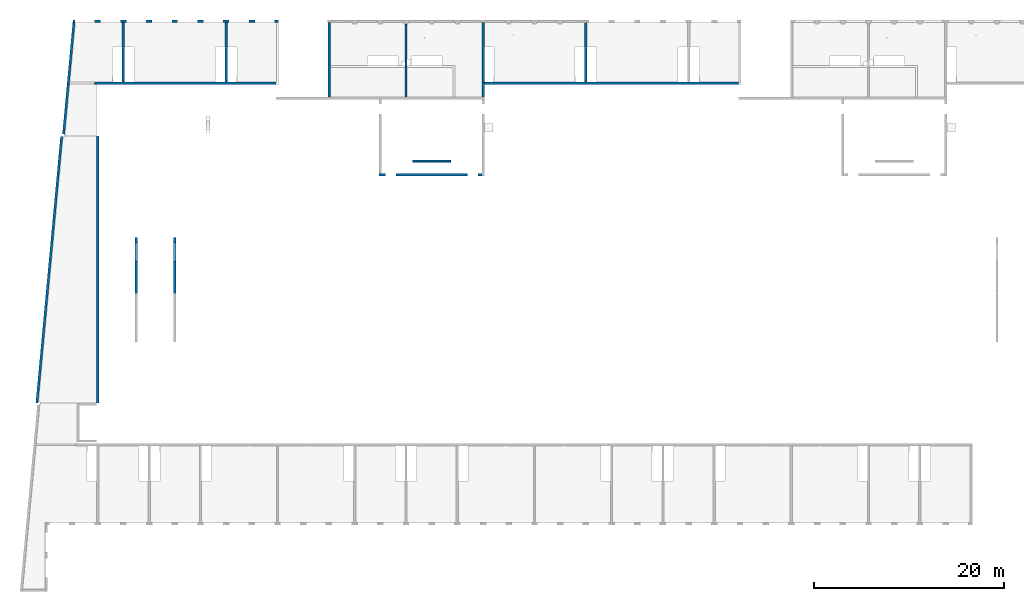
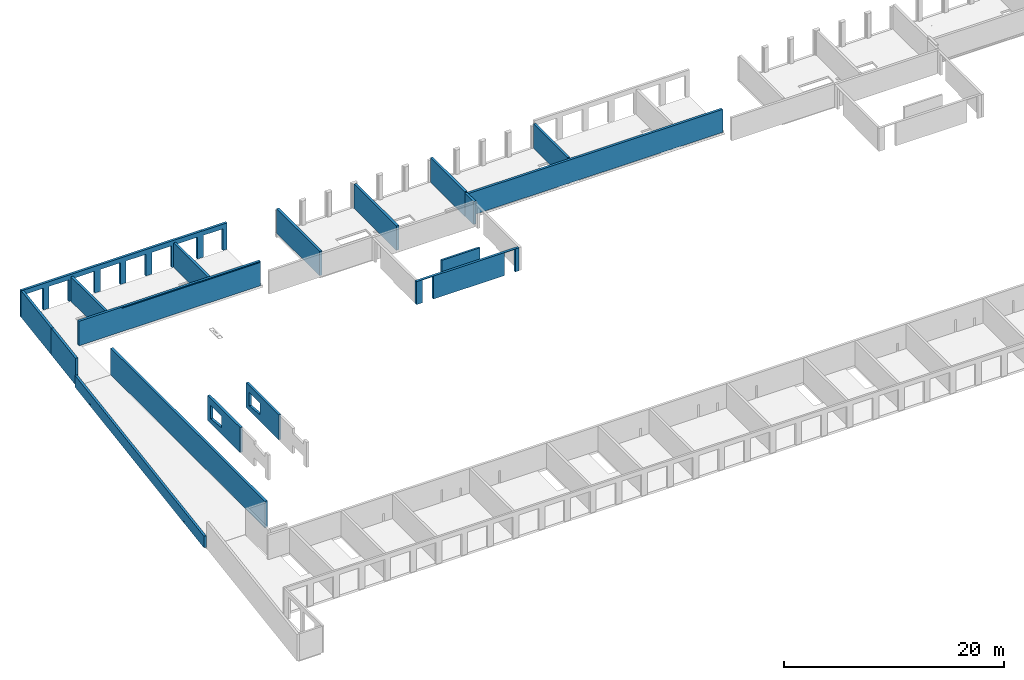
# One storey, part 5 of 12: 18 walls, 26 openings.
"""IFC2X3 building model written with IfcOpenShell, lengths in millimetres."""

from ifc_helpers import new_model, entity, si_unit, converted_unit, derived_unit, direction, frame, frame_2d, origin, origin_2d_with_axis, place, context, subcontext, project, spatial, polyline, rectangle, outline, extrude, clip, bounded_halfspace, faceted_brep, material, layer, layer_set, layer_usage, type_object, element, save


model = new_model("IFC2X3")

# Units and contexts
model_context = context("Model", 3, precision=0.01, world=origin(), true_north=direction((6.12303176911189e-17, 1.0)))
body_context = subcontext(model_context, "Body", "Model", "MODEL_VIEW")
ifc_project = project(units=[si_unit("LENGTHUNIT", "METRE", prefix="MILLI"), si_unit("AREAUNIT", "SQUARE_METRE"), si_unit("VOLUMEUNIT", "CUBIC_METRE"), converted_unit("PLANEANGLEUNIT", "DEGREE", entity("IfcRatioMeasure", 0.0174532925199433), si_unit("PLANEANGLEUNIT", "RADIAN"), dimensions=[0, 0, 0, 0, 0, 0, 0]), si_unit("MASSUNIT", "GRAM", prefix="KILO"), derived_unit("MASSDENSITYUNIT", [(si_unit("MASSUNIT", "GRAM", prefix="KILO"), 1), (si_unit("LENGTHUNIT", "METRE"), -3)]), si_unit("TIMEUNIT", "SECOND"), si_unit("FREQUENCYUNIT", "HERTZ"), si_unit("THERMODYNAMICTEMPERATUREUNIT", "DEGREE_CELSIUS"), derived_unit("THERMALTRANSMITTANCEUNIT", [(si_unit("MASSUNIT", "GRAM", prefix="KILO"), 1), (si_unit("THERMODYNAMICTEMPERATUREUNIT", "KELVIN"), -1), (si_unit("TIMEUNIT", "SECOND"), -3)]), derived_unit("VOLUMETRICFLOWRATEUNIT", [(si_unit("LENGTHUNIT", "METRE"), 3), (si_unit("TIMEUNIT", "SECOND"), -1)]), si_unit("ELECTRICCURRENTUNIT", "AMPERE"), si_unit("ELECTRICVOLTAGEUNIT", "VOLT"), si_unit("POWERUNIT", "WATT"), si_unit("FORCEUNIT", "NEWTON", prefix="KILO"), si_unit("ILLUMINANCEUNIT", "LUX"), si_unit("LUMINOUSFLUXUNIT", "LUMEN"), si_unit("LUMINOUSINTENSITYUNIT", "CANDELA"), derived_unit("USERDEFINED", [(si_unit("MASSUNIT", "GRAM", prefix="KILO"), -1), (si_unit("LENGTHUNIT", "METRE"), -2), (si_unit("TIMEUNIT", "SECOND"), 3), (si_unit("LUMINOUSFLUXUNIT", "LUMEN"), 1)]), derived_unit("LINEARVELOCITYUNIT", [(si_unit("LENGTHUNIT", "METRE"), 1), (si_unit("TIMEUNIT", "SECOND"), -1)]), si_unit("PRESSUREUNIT", "PASCAL"), derived_unit("USERDEFINED", [(si_unit("LENGTHUNIT", "METRE"), -2), (si_unit("MASSUNIT", "GRAM", prefix="KILO"), 1), (si_unit("TIMEUNIT", "SECOND"), -2)])], contexts=[model_context])

# Site, building, storey
site_placement = place(None, origin())
site = spatial("IfcSite", under=ifc_project, at=site_placement, Name="Default", CompositionType="ELEMENT")
building_placement = place(site_placement, origin())
building = spatial("IfcBuilding", under=site, at=building_placement, Name="niet gebruiken", CompositionType="ELEMENT")
storey_placement = place(building_placement, frame((0.0, 0.0, 6660.0)))
storey = spatial("IfcBuildingStorey", under=building, at=storey_placement, Name="02 tweede verdieping", CompositionType="ELEMENT", Elevation=6660.00000000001)

# Walls
ifc_material_1 = material(Name="NLRS_f2_beton ihwg")
ifc_layer_1 = layer(ifc_material_1, 250.0)
ifc_layer_set_1 = layer_set([ifc_layer_1], Name="Basic Wall:NLRS_22.21_WA_beton ihwg d=250_gen")
ifc_layer_usage_1 = layer_usage(ifc_layer_set_1, "AXIS2", "NEGATIVE", 125.0)
wall_type_1 = type_object("IfcWallType", Name="Basic Wall:NLRS_22.21_WA_beton ihwg d=250_gen", PredefinedType="STANDARD", material=ifc_layer_set_1)
wall_1_placement = place(storey_placement, frame((10800.0, 46746.0, -90.0), z_axis=(0.0, 0.0, 1.0), x_axis=(0.0, 1.0, 0.0)))
element("IfcWallStandardCase", 1, at=wall_1_placement, inside=storey, type_object=wall_type_1, material=ifc_layer_usage_1, Name="Basic Wall:NLRS_22.21_WA_beton ihwg d=250_gen", ObjectType="Basic Wall:NLRS_22.21_WA_beton ihwg d=250_gen", context=body_context, shape_type="SweptSolid", body=[
    extrude(rectangle(XDim=6239.99999999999, YDim=249.999999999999, at=frame_2d((3120.0, -2.1316282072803e-14), x_axis=(-1.0, 0.0))), origin(), (0.0, 0.0, 1.0), 2720.00000000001),
])
ifc_layer_usage_2 = layer_usage(ifc_layer_set_1, "AXIS2", "NEGATIVE", 125.0)
wall_2_placement = place(storey_placement, frame((21600.0, 46746.0, -90.0), z_axis=(0.0, 0.0, 1.0), x_axis=(0.0, 1.0, 0.0)))
element("IfcWallStandardCase", 2, at=wall_2_placement, inside=storey, type_object=wall_type_1, material=ifc_layer_usage_2, Name="Basic Wall:NLRS_22.21_WA_beton ihwg d=250_gen", ObjectType="Basic Wall:NLRS_22.21_WA_beton ihwg d=250_gen", context=body_context, shape_type="SweptSolid", body=[
    extrude(rectangle(XDim=6240.00000000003, YDim=250.000000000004, at=frame_2d((3120.00000000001, 1.06581410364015e-12), x_axis=(-1.0, 0.0))), origin(), (0.0, 0.0, 1.0), 2720.00000000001),
])

# Wall, openings
ifc_layer_usage_3 = layer_usage(ifc_layer_set_1, "AXIS2", "NEGATIVE", 125.0)
wall_3_placement = place(storey_placement, frame((26850.0, 46621.0, -90.0), z_axis=(0.0, 0.0, 1.0), x_axis=(-1.0, 0.0, 0.0)))
wall_3 = element("IfcWallStandardCase", 3, at=wall_3_placement, inside=storey, type_object=wall_type_1, material=ifc_layer_usage_3, Name="Basic Wall:NLRS_22.21_WA_beton ihwg d=250_gen", ObjectType="Basic Wall:NLRS_22.21_WA_beton ihwg d=250_gen", context=body_context, shape_type="SweptSolid", body=[
    extrude(rectangle(XDim=19065.0000000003, YDim=249.999999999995, at=frame_2d((9532.50000000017, -3.24007487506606e-12), x_axis=(-1.0, 0.0))), origin(), (0.0, 0.0, 1.0), 2720.0),
])
opening_1_placement = place(storey_placement, frame((26850.0, 46621.0, -90.0), z_axis=(0.0, 0.0, 1.0), x_axis=(-1.0, 0.0, 0.0)))
element("IfcOpeningElement", 4, at=opening_1_placement, cuts=wall_3, Name="Basic Wall:NLRS_22.21_WA_beton ihwg d=250_gen:1", ObjectType="Opening", context=body_context, shape_type="SweptSolid", body=[
    extrude(rectangle(XDim=14555.0000950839, YDim=20.0000000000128, at=frame_2d((2.27373675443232e-12, -1.29949384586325e-11), x_axis=(1.0, 0.0))), frame((7277.50004754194, 115.0, 2590.0)), (0.0, 0.0, 1.0), 70.0000000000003),
])
opening_2_placement = place(wall_3_placement, origin())
element("IfcOpeningElement", 5, at=opening_2_placement, cuts=wall_3, Name="Basic Wall:NLRS_22.21_WA_beton ihwg d=250_gen", ObjectType="Recess", context=body_context, shape_type="SweptSolid", body=[
    extrude(rectangle(XDim=890.0, YDim=200.000000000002, at=frame_2d((5.40012479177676e-13, 0.0), x_axis=(1.0, 0.0))), frame((910.0, -125.0, 445.0), z_axis=(0.0, 1.0, 0.0), x_axis=(0.0, 0.0, -1.0)), (0.0, 0.0, 1.0), 40.0000000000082),
])
opening_3_placement = place(wall_3_placement, origin())
element("IfcOpeningElement", 6, at=opening_3_placement, cuts=wall_3, Name="Basic Wall:NLRS_22.21_WA_beton ihwg d=250_gen", ObjectType="Recess", context=body_context, shape_type="SweptSolid", body=[
    extrude(rectangle(XDim=890.0, YDim=200.0, at=frame_2d((5.40012479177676e-13, -1.08713038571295e-12), x_axis=(1.0, 0.0))), frame((9610.0, -125.0, 445.0), z_axis=(0.0, 1.0, 0.0), x_axis=(0.0, 0.0, -1.0)), (0.0, 0.0, 1.0), 40.0000000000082),
])
opening_4_placement = place(wall_3_placement, origin())
element("IfcOpeningElement", 7, at=opening_4_placement, cuts=wall_3, Name="Basic Wall:NLRS_22.21_WA_beton ihwg d=250_gen", ObjectType="Recess", context=body_context, shape_type="SweptSolid", body=[
    extrude(rectangle(XDim=890.0, YDim=200.0, at=frame_2d((5.40012479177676e-13, 1.08713038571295e-12), x_axis=(1.0, 0.0))), frame((11690.0, -125.0, 445.0), z_axis=(0.0, 1.0, 0.0), x_axis=(0.0, 0.0, -1.0)), (0.0, 0.0, 1.0), 40.0000000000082),
])

ifc_layer_usage_4 = layer_usage(ifc_layer_set_1, "AXIS2", "NEGATIVE", 125.0)
wall_4_placement = place(storey_placement, frame((75450.0, 46621.0, -50.0), z_axis=(0.0, 0.0, 1.0), x_axis=(-1.0, 0.0, 0.0)))
wall_4 = element("IfcWallStandardCase", 8, at=wall_4_placement, inside=storey, type_object=wall_type_1, material=ifc_layer_usage_4, Name="Basic Wall:NLRS_22.21_WA_beton ihwg d=250_gen", ObjectType="Basic Wall:NLRS_22.21_WA_beton ihwg d=250_gen", context=body_context, shape_type="Clipping", body=[
    clip(clip(extrude(rectangle(XDim=26725.0, YDim=249.999999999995, at=frame_2d((13362.5, -9.87654402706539e-13), x_axis=(-1.0, 0.0))), origin(), (0.0, 0.0, 1.0), 2550.0), bounded_halfspace(frame((26725.0, -125.0, 0.0), z_axis=(0.0, 0.0, 1.0), x_axis=(-1.0, 0.0, 0.0)), True, frame((26725.0, -125.0, 0.0), z_axis=(0.0, 0.0, 1.0), x_axis=(-1.0, 0.0, 0.0)), polyline([(0.0, 0.0), (0.0, -250.0), (26725.0, -250.0), (26725.0, 0.0), (25915.0, 0.0), (25915.0, -40.0), (25715.0, -40.0), (25715.0, 0.0), (17210.0, 0.0), (17210.0, -40.0), (17010.0, -40.0), (17010.0, 0.0), (15140.0, 0.0), (15140.0, -40.0), (14940.0, -40.0), (14940.0, 0.0), (6410.0, 0.0), (6410.0, -40.0), (6210.0, -40.0), (6210.0, 0.0), (4340.0, 0.0), (4340.0, -40.0), (4140.0, -40.0), (4140.0, 0.0), (0.0, 0.0)]))), bounded_halfspace(frame((0.0, -125.0, 2550.0), z_axis=(0.0, 0.0, -1.0), x_axis=(1.0, 0.0, 0.0)), True, frame((0.0, -125.0, 2550.0), z_axis=(0.0, 0.0, -1.0), x_axis=(1.0, 0.0, 0.0)), polyline([(0.0, 0.0), (0.0, -250.0), (26725.0, -250.0), (26725.0, 0.0), (0.0, 0.0)]))),
])
opening_5_placement = place(wall_4_placement, origin())
element("IfcOpeningElement", 9, at=opening_5_placement, cuts=wall_4, Name="Basic Wall:NLRS_22.21_WA_beton ihwg d=250_gen", ObjectType="Recess", context=body_context, shape_type="SweptSolid", body=[
    extrude(rectangle(XDim=890.0, YDim=199.999999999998, at=frame_2d((5.40012479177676e-13, 0.0), x_axis=(1.0, 0.0))), frame((20415.0, -125.0, 405.0), z_axis=(0.0, 1.0, 0.0), x_axis=(0.0, 0.0, -1.0)), (0.0, 0.0, 1.0), 40.0000000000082),
])
opening_6_placement = place(wall_4_placement, origin())
element("IfcOpeningElement", 10, at=opening_6_placement, cuts=wall_4, Name="Basic Wall:NLRS_22.21_WA_beton ihwg d=250_gen", ObjectType="Recess", context=body_context, shape_type="SweptSolid", body=[
    extrude(rectangle(XDim=890.0, YDim=199.999999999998, at=frame_2d((5.40012479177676e-13, 0.0), x_axis=(1.0, 0.0))), frame((22485.0, -125.0, 405.0), z_axis=(0.0, 1.0, 0.0), x_axis=(0.0, 0.0, -1.0)), (0.0, 0.0, 1.0), 40.0000000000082),
])
opening_7_placement = place(wall_4_placement, origin())
element("IfcOpeningElement", 11, at=opening_7_placement, cuts=wall_4, Name="Basic Wall:NLRS_22.21_WA_beton ihwg d=250_gen", ObjectType="Recess", context=body_context, shape_type="SweptSolid", body=[
    extrude(rectangle(XDim=890.0, YDim=199.999999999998, at=frame_2d((5.40012479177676e-13, 0.0), x_axis=(1.0, 0.0))), frame((11685.0, -125.0, 405.0), z_axis=(0.0, 1.0, 0.0), x_axis=(0.0, 0.0, -1.0)), (0.0, 0.0, 1.0), 40.0000000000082),
])
opening_8_placement = place(wall_4_placement, origin())
element("IfcOpeningElement", 12, at=opening_8_placement, cuts=wall_4, Name="Basic Wall:NLRS_22.21_WA_beton ihwg d=250_gen", ObjectType="Recess", context=body_context, shape_type="SweptSolid", body=[
    extrude(rectangle(XDim=890.0, YDim=199.999999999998, at=frame_2d((5.40012479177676e-13, 0.0), x_axis=(1.0, 0.0))), frame((9615.0, -125.0, 405.0), z_axis=(0.0, 1.0, 0.0), x_axis=(0.0, 0.0, -1.0)), (0.0, 0.0, 1.0), 40.0000000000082),
])
opening_9_placement = place(wall_4_placement, origin())
element("IfcOpeningElement", 13, at=opening_9_placement, cuts=wall_4, Name="Basic Wall:NLRS_22.21_WA_beton ihwg d=250_gen", ObjectType="Recess", context=body_context, shape_type="SweptSolid", body=[
    extrude(rectangle(XDim=890.0, YDim=199.999999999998, at=frame_2d((5.40012479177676e-13, 0.0), x_axis=(1.0, 0.0))), frame((910.0, -125.0, 405.0), z_axis=(0.0, 1.0, 0.0), x_axis=(0.0, 0.0, -1.0)), (0.0, 0.0, 1.0), 40.0000000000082),
])

# Walls
ifc_layer_usage_5 = layer_usage(ifc_layer_set_1, "AXIS2", "NEGATIVE", 125.0)
wall_5_placement = place(storey_placement, frame((59400.0, 46746.0, -90.0), z_axis=(0.0, 0.0, 1.0), x_axis=(0.0, 1.0, 0.0)))
element("IfcWallStandardCase", 14, at=wall_5_placement, inside=storey, type_object=wall_type_1, material=ifc_layer_usage_5, Name="Basic Wall:NLRS_22.21_WA_beton ihwg d=250_gen", ObjectType="Basic Wall:NLRS_22.21_WA_beton ihwg d=250_gen", context=body_context, shape_type="SweptSolid", body=[
    extrude(rectangle(XDim=6239.99999999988, YDim=249.999999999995, at=frame_2d((3119.99999999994, 1.06581410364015e-12), x_axis=(-1.0, 0.0))), origin(), (0.0, 0.0, 1.0), 2720.00000000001),
])
ifc_layer_usage_6 = layer_usage(ifc_layer_set_1, "AXIS2", "NEGATIVE", 125.0)
wall_6_placement = place(storey_placement, frame((40500.0, 45156.0, -90.0), z_axis=(0.0, 0.0, 1.0), x_axis=(0.0, 1.0, 0.0)))
element("IfcWallStandardCase", 15, at=wall_6_placement, inside=storey, type_object=wall_type_1, material=ifc_layer_usage_6, Name="Basic Wall:NLRS_22.21_WA_beton ihwg d=250_gen", ObjectType="Basic Wall:NLRS_22.21_WA_beton ihwg d=250_gen", context=body_context, shape_type="SweptSolid", body=[
    extrude(rectangle(XDim=7690.00000000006, YDim=249.999999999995, at=frame_2d((3845.00000000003, 2.31636931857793e-12), x_axis=(-1.0, 0.0))), origin(), (0.0, 0.0, 1.0), 2720.00000000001),
])
ifc_layer_usage_7 = layer_usage(ifc_layer_set_1, "AXIS2", "NEGATIVE", 125.0)
wall_7_placement = place(storey_placement, frame((32425.0, 45156.0, -90.0), z_axis=(0.0, 0.0, 1.0), x_axis=(0.0, 1.0, 0.0)))
element("IfcWallStandardCase", 16, at=wall_7_placement, inside=storey, type_object=wall_type_1, material=ifc_layer_usage_7, Name="Basic Wall:NLRS_22.21_WA_beton ihwg d=250_gen", ObjectType="Basic Wall:NLRS_22.21_WA_beton ihwg d=250_gen", context=body_context, shape_type="SweptSolid", body=[
    extrude(rectangle(XDim=7849.99999999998, YDim=250.000000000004, at=frame_2d((3924.99999999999, 2.98427949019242e-13), x_axis=(-1.0, 0.0))), origin(), (0.0, 0.0, 1.0), 2720.00000000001),
])

# Wall, openings
ifc_layer_usage_8 = layer_usage(ifc_layer_set_1, "AXIS2", "NEGATIVE", 125.0)
wall_8_placement = place(storey_placement, frame((48475.0, 36981.0, -140.0), z_axis=(0.0, 0.0, 1.0), x_axis=(-1.0, 0.0, 0.0)))
wall_8 = element("IfcWallStandardCase", 17, at=wall_8_placement, inside=storey, type_object=wall_type_1, material=ifc_layer_usage_8, Name="Basic Wall:NLRS_22.21_WA_beton ihwg d=250_gen", ObjectType="Basic Wall:NLRS_22.21_WA_beton ihwg d=250_gen", context=body_context, shape_type="Clipping", body=[
    clip(extrude(rectangle(XDim=10800.0, YDim=250.000000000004, at=frame_2d((5399.99999999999, -5.47117906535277e-13), x_axis=(-1.0, 0.0))), origin(), (0.0, 0.0, 1.0), 2549.99999999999), bounded_halfspace(frame((0.0, -125.0, 2550.0), z_axis=(0.0, 0.0, -1.0), x_axis=(-1.0, 0.0, 0.0)), True, frame((0.0, -125.0, 2550.0), z_axis=(0.0, 0.0, -1.0), x_axis=(-1.0, 0.0, 0.0)), polyline([(0.0, 0.0), (0.0, 250.0), (-10800.0, 250.0), (-10800.0, 0.0), (-10550.0, 0.0), (-10250.0, 0.0), (-7175.00021676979, 0.0), (-7145.00021676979, 0.0), (-3405.00021676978, 0.0), (-3375.00021676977, 0.0), (0.0, 0.0)]))),
])
opening_10_placement = place(wall_8_placement, origin())
element("IfcOpeningElement", 18, at=opening_10_placement, cuts=wall_8, Name="Basic Wall:NLRS_22.21_WA_beton ihwg d=250_gen", ObjectType="Opening", context=body_context, shape_type="SweptSolid", body=[
    extrude(rectangle(XDim=2495.0, YDim=1130.0, at=frame_2d((-5.6843418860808e-13, 0.0), x_axis=(1.0, 0.0))), frame((9585.0, -1649.0, 1247.5), z_axis=(0.0, 1.0, 0.0), x_axis=(0.0, 0.0, 1.0)), (0.0, 0.0, 1.0), 3048.0),
])
opening_11_placement = place(wall_8_placement, origin())
element("IfcOpeningElement", 19, at=opening_11_placement, cuts=wall_8, Name="Basic Wall:NLRS_22.21_WA_beton ihwg d=250_gen", ObjectType="Opening", context=body_context, shape_type="SweptSolid", body=[
    extrude(rectangle(XDim=2495.0, YDim=1130.0, at=frame_2d((5.6843418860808e-13, 0.0), x_axis=(1.0, 0.0))), frame((965.0, -1649.0, 1247.5), z_axis=(0.0, 1.0, 0.0), x_axis=(0.0, 0.0, 1.0)), (0.0, 0.0, 1.0), 3048.0),
])

# Walls
ifc_layer_usage_9 = layer_usage(ifc_layer_set_1, "AXIS2", "NEGATIVE", 125.0)
wall_9_placement = place(storey_placement, frame((48600.0, 46746.0, -90.0), z_axis=(0.0, 0.0, 1.0), x_axis=(0.0, 1.0, 0.0)))
element("IfcWallStandardCase", 20, at=wall_9_placement, inside=storey, type_object=wall_type_1, material=ifc_layer_usage_9, Name="Basic Wall:NLRS_22.21_WA_beton ihwg d=250_gen", ObjectType="Basic Wall:NLRS_22.21_WA_beton ihwg d=250_gen", context=body_context, shape_type="Clipping", body=[
    clip(extrude(rectangle(XDim=6259.99999999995, YDim=249.999999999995, at=frame_2d((3129.99999999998, 1.08713038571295e-12), x_axis=(-1.0, 0.0))), origin(), (0.0, 0.0, 1.0), 2720.00000000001), bounded_halfspace(frame((3680.0, -125.0, 2720.0), z_axis=(0.0, 0.0, -1.0), x_axis=(-1.0, 0.0, 0.0)), True, frame((3680.0, -125.0, 2720.0), z_axis=(0.0, 0.0, -1.0), x_axis=(-1.0, 0.0, 0.0)), polyline([(0.0, 0.0), (3680.0, 0.0), (3680.0, 230.0), (3680.0, 250.0), (-2580.0, 250.0), (-2580.0, 230.0), (-2580.0, 125.0), (-2580.0, 20.0), (-2580.0, 0.0), (0.0, 0.0)]))),
])
ifc_layer_usage_10 = layer_usage(ifc_layer_set_1, "AXIS2", "NEGATIVE", 125.0)
wall_10_placement = place(storey_placement, frame((48600.0, 45156.0, -50.0), z_axis=(0.0, 0.0, 1.0), x_axis=(0.0, 1.0, 0.0)))
element("IfcWallStandardCase", 21, at=wall_10_placement, inside=storey, type_object=wall_type_1, material=ifc_layer_usage_10, Name="Basic Wall:NLRS_22.21_WA_beton ihwg d=250_gen", ObjectType="Basic Wall:NLRS_22.21_WA_beton ihwg d=250_gen", context=body_context, shape_type="Clipping", body=[
    clip(clip(extrude(rectangle(XDim=1590.00000000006, YDim=249.999999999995, at=frame_2d((795.000000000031, 1.37845290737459e-12), x_axis=(-1.0, 0.0))), origin(), (0.0, 0.0, 1.0), 2550.0), bounded_halfspace(frame((900.0, -125.0, 0.0), z_axis=(0.0, 0.0, 1.0), x_axis=(0.0, -1.0, 0.0)), True, frame((900.0, -125.0, 0.0), z_axis=(0.0, 0.0, 1.0), x_axis=(0.0, -1.0, 0.0)), polyline([(0.0, 0.0), (0.0, 690.0), (-250.0, 690.0), (-250.0, -900.0), (0.0, -900.0), (0.0, 0.0)]))), bounded_halfspace(frame((900.0, -125.0, 2550.0), z_axis=(0.0, 0.0, -1.0), x_axis=(0.0, 1.0, 0.0)), True, frame((900.0, -125.0, 2550.0), z_axis=(0.0, 0.0, -1.0), x_axis=(0.0, 1.0, 0.0)), polyline([(0.0, 0.0), (0.0, -900.0), (20.0, -900.0), (250.0, -900.0), (250.0, 690.0), (0.0, 690.0), (0.0, 0.0)]))),
])

# Wall, openings
ifc_material_2 = material(Name="NLRS_f2_beton prefab")
ifc_layer_2 = layer(ifc_material_2, 250.0)
ifc_layer_set_2 = layer_set([ifc_layer_2], Name="Basic Wall:NLRS_21.21_WA_beton prefab d=250_gen")
ifc_layer_usage_11 = layer_usage(ifc_layer_set_2, "AXIS2", "NEGATIVE", 125.0)
wall_type_2 = type_object("IfcWallType", Name="Basic Wall:NLRS_21.21_WA_beton prefab d=250_gen", PredefinedType="STANDARD", material=ifc_layer_set_2)
wall_11_placement = place(storey_placement, frame((5489.22191752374, 53131.0, -70.0)))
wall_11 = element("IfcWallStandardCase", 22, at=wall_11_placement, inside=storey, type_object=wall_type_2, material=ifc_layer_usage_11, Name="Basic Wall:NLRS_21.21_WA_beton prefab d=250_gen", ObjectType="Basic Wall:NLRS_21.21_WA_beton prefab d=250_gen", context=body_context, shape_type="SweptSolid", body=[
    extrude(rectangle(XDim=21610.7780824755, YDim=249.999999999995, at=frame_2d((10805.3890412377, 3.97903932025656e-13), x_axis=(-1.0, 0.0))), origin(), (0.0, 0.0, 1.0), 2950.00000000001),
])
opening_12_placement = place(wall_11_placement, origin())
element("IfcOpeningElement", 23, at=opening_12_placement, cuts=wall_11, Name="Basic Wall:NLRS_21.21_WA_beton prefab d=250_gen", ObjectType="Opening", context=body_context, shape_type="SweptSolid", body=[
    extrude(rectangle(XDim=2440.0, YDim=2080.0, at=origin_2d_with_axis()), frame((1260.77808247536, -1649.0, 1200.0), z_axis=(0.0, 1.0, 0.0), x_axis=(0.0, 0.0, 1.0)), (0.0, 0.0, 1.0), 3048.0),
])
opening_13_placement = place(wall_11_placement, origin())
element("IfcOpeningElement", 24, at=opening_13_placement, cuts=wall_11, Name="Basic Wall:NLRS_21.21_WA_beton prefab d=250_gen", ObjectType="Opening", context=body_context, shape_type="SweptSolid", body=[
    extrude(rectangle(XDim=2440.0, YDim=2080.0, at=frame_2d((0.0, -2.1600499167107e-12), x_axis=(1.0, 0.0))), frame((14760.7780824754, -1649.0, 1200.0), z_axis=(0.0, 1.0, 0.0), x_axis=(0.0, 0.0, 1.0)), (0.0, 0.0, 1.0), 3048.0),
])
opening_14_placement = place(wall_11_placement, origin())
element("IfcOpeningElement", 25, at=opening_14_placement, cuts=wall_11, Name="Basic Wall:NLRS_21.21_WA_beton prefab d=250_gen", ObjectType="Opening", context=body_context, shape_type="SweptSolid", body=[
    extrude(rectangle(XDim=2440.0, YDim=2080.0, at=origin_2d_with_axis()), frame((12060.7780824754, -1649.0, 1200.0), z_axis=(0.0, 1.0, 0.0), x_axis=(0.0, 0.0, 1.0)), (0.0, 0.0, 1.0), 3048.0),
])
opening_15_placement = place(wall_11_placement, origin())
element("IfcOpeningElement", 26, at=opening_15_placement, cuts=wall_11, Name="Basic Wall:NLRS_21.21_WA_beton prefab d=250_gen", ObjectType="Opening", context=body_context, shape_type="SweptSolid", body=[
    extrude(rectangle(XDim=2440.0, YDim=2080.0, at=origin_2d_with_axis()), frame((9360.77808247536, -1649.0, 1200.0), z_axis=(0.0, 1.0, 0.0), x_axis=(0.0, 0.0, 1.0)), (0.0, 0.0, 1.0), 3048.0),
])
opening_16_placement = place(wall_11_placement, origin())
element("IfcOpeningElement", 27, at=opening_16_placement, cuts=wall_11, Name="Basic Wall:NLRS_21.21_WA_beton prefab d=250_gen", ObjectType="Opening", context=body_context, shape_type="SweptSolid", body=[
    extrude(rectangle(XDim=2440.0, YDim=2080.0, at=origin_2d_with_axis()), frame((6660.77808247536, -1649.0, 1200.0), z_axis=(0.0, 1.0, 0.0), x_axis=(0.0, 0.0, 1.0)), (0.0, 0.0, 1.0), 3048.0),
])
opening_17_placement = place(wall_11_placement, origin())
element("IfcOpeningElement", 28, at=opening_17_placement, cuts=wall_11, Name="Basic Wall:NLRS_21.21_WA_beton prefab d=250_gen", ObjectType="Opening", context=body_context, shape_type="SweptSolid", body=[
    extrude(rectangle(XDim=2440.0, YDim=2080.0, at=origin_2d_with_axis()), frame((3960.77808247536, -1649.0, 1200.0), z_axis=(0.0, 1.0, 0.0), x_axis=(0.0, 0.0, 1.0)), (0.0, 0.0, 1.0), 3048.0),
])
opening_18_placement = place(wall_11_placement, origin())
element("IfcOpeningElement", 29, at=opening_18_placement, cuts=wall_11, Name="Basic Wall:NLRS_21.21_WA_beton prefab d=250_gen", ObjectType="Opening", context=body_context, shape_type="SweptSolid", body=[
    extrude(rectangle(XDim=2440.0, YDim=2080.0, at=frame_2d((0.0, -2.1600499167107e-12), x_axis=(1.0, 0.0))), frame((17460.7780824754, -1649.0, 1200.0), z_axis=(0.0, 1.0, 0.0), x_axis=(0.0, 0.0, 1.0)), (0.0, 0.0, 1.0), 3048.0),
])
opening_19_placement = place(wall_11_placement, origin())
element("IfcOpeningElement", 30, at=opening_19_placement, cuts=wall_11, Name="Basic Wall:NLRS_21.21_WA_beton prefab d=250_gen", ObjectType="Opening", context=body_context, shape_type="SweptSolid", body=[
    extrude(rectangle(XDim=2440.0, YDim=2080.0, at=frame_2d((1.13686837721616e-12, -2.1600499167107e-12), x_axis=(1.0, 0.0))), frame((20160.7780824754, -1649.0, 1200.0), z_axis=(0.0, 1.0, 0.0), x_axis=(0.0, 0.0, 1.0)), (0.0, 0.0, 1.0), 3048.0),
])
opening_20_placement = place(wall_11_placement, origin())
element("IfcOpeningElement", 31, at=opening_20_placement, cuts=wall_11, Name="Basic Wall:NLRS_21.21_WA_beton prefab d=250_gen", ObjectType="Opening", context=body_context, shape_type="SweptSolid", body=[
    extrude(rectangle(XDim=19.99999999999, YDim=2594.99999999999, at=frame_2d((2.70716782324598e-12, 0.0), x_axis=(1.0, 0.0))), frame((20313.2780824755, 125.0, 2940.0), z_axis=(0.0, -1.0, 0.0), x_axis=(0.0, 0.0, 1.0)), (0.0, 0.0, 1.0), 250.0),
])

# Walls
ifc_layer_usage_12 = layer_usage(ifc_layer_set_2, "AXIS2", "NEGATIVE", 125.0)
wall_12_placement = place(storey_placement, frame((8100.0, 12986.0, -70.0), z_axis=(0.0, 0.0, 1.0), x_axis=(0.0, 1.0, 0.0)))
element("IfcWallStandardCase", 32, at=wall_12_placement, inside=storey, type_object=wall_type_2, material=ifc_layer_usage_12, Name="Basic Wall:NLRS_21.21_WA_beton prefab d=250_gen", ObjectType="Basic Wall:NLRS_21.21_WA_beton prefab d=250_gen", context=body_context, shape_type="SweptSolid", body=[
    extrude(rectangle(XDim=28075.0000000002, YDim=249.999999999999, at=frame_2d((14037.5000000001, -8.5265128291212e-14), x_axis=(-1.0, 0.0))), origin(), (0.0, 0.0, 1.0), 2949.99999999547),
])
ifc_layer_usage_13 = layer_usage(ifc_layer_set_2, "AXIS2", "NEGATIVE", 125.0)
wall_13_placement = place(storey_placement, frame((4999.76909310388, 46496.4629439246, -70.0), z_axis=(0.0, 0.0, 1.0), x_axis=(-0.0922993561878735, -0.995731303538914, 0.0)))
element("IfcWallStandardCase", 33, at=wall_13_placement, inside=storey, type_object=wall_type_2, material=ifc_layer_usage_13, Name="Basic Wall:NLRS_21.21_WA_beton prefab d=250_gen", ObjectType="Basic Wall:NLRS_21.21_WA_beton prefab d=250_gen", context=body_context, shape_type="SweptSolid", body=[
    extrude(rectangle(XDim=5266.33480054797, YDim=250.0, at=frame_2d((2633.16740027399, -2.91322521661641e-13), x_axis=(-1.0, 0.0))), origin(), (0.0, 0.0, 1.0), 2950.00000000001),
])

# Wall, opening
ifc_layer_usage_14 = layer_usage(ifc_layer_set_2, "AXIS2", "NEGATIVE", 125.0)
wall_14_placement = place(storey_placement, frame((5603.1709116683, 53006.0, -70.0), z_axis=(0.0, 0.0, 1.0), x_axis=(-0.0922993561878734, -0.995731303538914, 0.0)))
wall_14 = element("IfcWallStandardCase", 34, at=wall_14_placement, inside=storey, type_object=wall_type_2, material=ifc_layer_usage_14, Name="Basic Wall:NLRS_21.21_WA_beton prefab d=250_gen", ObjectType="Basic Wall:NLRS_21.21_WA_beton prefab d=250_gen", context=body_context, shape_type="SweptSolid", body=[
    extrude(rectangle(XDim=6537.44341765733, YDim=250.000000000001, at=frame_2d((3268.72170882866, 2.48689957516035e-13), x_axis=(-1.0, 0.0))), origin(), (0.0, 0.0, 1.0), 2950.00000000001),
])
opening_21_placement = place(wall_14_placement, origin())
element("IfcOpeningElement", 35, at=opening_21_placement, cuts=wall_14, Name="Basic Wall:NLRS_21.21_WA_beton prefab d=250_gen", ObjectType="Opening", context=body_context, shape_type="SweptSolid", body=[
    extrude(rectangle(XDim=2440.0, YDim=250.000000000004, at=frame_2d((-4.33431068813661e-12, 0.0), x_axis=(0.0, 1.0))), frame((-134.326669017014, 94.8356478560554, 1200.0), z_axis=(-0.0922993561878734, 0.995731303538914, 0.0), x_axis=(0.995731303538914, 0.0922993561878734, 0.0)), (0.0, 0.0, 1.0), 2080.0),
])

# Wall, openings
ifc_layer_usage_15 = layer_usage(ifc_layer_set_2, "AXIS2", "NEGATIVE", 125.0)
wall_15_placement = place(storey_placement, frame((1714.53464902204, 13005.4359176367, -70.0), z_axis=(0.0, 0.0, 1.0), x_axis=(0.0922987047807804, 0.995731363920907, 0.0)))
wall_15 = element("IfcWallStandardCase", 36, at=wall_15_placement, inside=storey, type_object=wall_type_2, material=ifc_layer_usage_15, Name="Basic Wall:NLRS_21.21_WA_beton prefab d=250_gen", ObjectType="Basic Wall:NLRS_21.21_WA_beton prefab d=250_gen", context=body_context, shape_type="SweptSolid", body=[
    extrude(rectangle(XDim=28134.9819653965, YDim=250.000000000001, at=frame_2d((14067.4909826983, 2.20268248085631e-13), x_axis=(-1.0, 0.0))), origin(), (0.0, 0.0, 1.0), 1295.0),
])
opening_22_placement = place(wall_15_placement, origin())
element("IfcOpeningElement", 37, at=opening_22_placement, cuts=wall_15, Name="Basic Wall:NLRS_21.21_WA_beton prefab d=250_gen", ObjectType="Opening", context=body_context, shape_type="SweptSolid", body=[
    extrude(rectangle(XDim=69.9999999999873, YDim=250.000000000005, at=frame_2d((-5.40012479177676e-13, 0.0), x_axis=(1.0, 0.0))), frame((24837.2683644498, -125.0, 185.0), z_axis=(0.0, 1.0, 0.0), x_axis=(0.0, 0.0, -1.0)), (0.0, 0.0, 1.0), 250.0),
])
opening_23_placement = place(wall_15_placement, origin())
element("IfcOpeningElement", 38, at=opening_23_placement, cuts=wall_15, Name="Basic Wall:NLRS_21.21_WA_beton prefab d=250_gen", ObjectType="Opening", context=body_context, shape_type="SweptSolid", body=[
    extrude(rectangle(XDim=69.9999999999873, YDim=249.999999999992, at=frame_2d((-5.40012479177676e-13, -1.4210854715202e-14), x_axis=(1.0, 0.0))), frame((4337.26836444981, -125.0, 185.0), z_axis=(0.0, 1.0, 0.0), x_axis=(0.0, 0.0, -1.0)), (0.0, 0.0, 1.0), 250.0),
])
opening_24_placement = place(wall_15_placement, frame((-22.9761787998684, 122.870237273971, 1280.0)))
element("IfcOpeningElement", 39, at=opening_24_placement, cuts=wall_15, Name="Basic Wall:NLRS_21.21_WA_beton prefab d=250_gen", ObjectType="Opening", context=body_context, shape_type="Brep", body=[
    faceted_brep([(28157.9581441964, -247.870237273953, 15.0), (28157.9581441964, -247.870237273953, 0.0), (28157.9581441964, 2.12976272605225, 15.0), (22.9761787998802, -247.870237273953, 15.0), (22.9761787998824, 2.12976272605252, 15.0), (22.9761787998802, -247.870237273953, 0.0)], [[[0, 1, 2]], [[3, 4, 5]], [[1, 0, 3, 5]], [[2, 1, 5, 4]], [[0, 2, 4, 3]]]),
])

# Wall, opening
ifc_layer_3 = layer(ifc_material_2, 250.0)
ifc_layer_set_3 = layer_set([ifc_layer_3], Name="Basic Wall:NLRS_22.21_WA_beton prefab d=250_gen")
ifc_layer_usage_16 = layer_usage(ifc_layer_set_3, "AXIS2", "NEGATIVE", 125.0)
wall_type_3 = type_object("IfcWallType", Name="Basic Wall:NLRS_22.21_WA_beton prefab d=250_gen", PredefinedType="STANDARD", material=ifc_layer_set_3)
wall_16_placement = place(storey_placement, frame((16200.0, 30426.0, -100.0), z_axis=(0.0, 0.0, 1.0), x_axis=(0.0, -1.0, 0.0)))
wall_16 = element("IfcWallStandardCase", 40, at=wall_16_placement, inside=storey, type_object=wall_type_3, material=ifc_layer_usage_16, Name="Basic Wall:NLRS_22.21_WA_beton prefab d=250_gen", ObjectType="Basic Wall:NLRS_22.21_WA_beton prefab d=250_gen", context=body_context, shape_type="SweptSolid", body=[
    extrude(rectangle(XDim=5934.99999999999, YDim=249.999999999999, at=frame_2d((2967.5, 0.0), x_axis=(-1.0, 0.0))), origin(), (0.0, 0.0, 1.0), 2780.0),
])
opening_25_placement = place(wall_16_placement, origin())
element("IfcOpeningElement", 41, at=opening_25_placement, cuts=wall_16, Name="Basic Wall:NLRS_22.21_WA_beton prefab d=250_gen", ObjectType="Opening", context=body_context, shape_type="SweptSolid", body=[
    extrude(outline(polyline([(-1073.29711274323, -683.09550631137), (936.67801148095, -683.09550631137), (1063.34674084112, 583.591787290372), (-926.727639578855, 782.599225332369), (-1073.29711274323, -683.09550631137)])), frame((1550.0, 125.0, 1313.49751242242), z_axis=(0.0, -1.0, 0.0), x_axis=(0.995037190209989, 0.0, 0.0995037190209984)), (0.0, 0.0, 1.0), 250.0),
])

ifc_layer_usage_17 = layer_usage(ifc_layer_set_3, "AXIS2", "NEGATIVE", 125.0)
wall_17_placement = place(storey_placement, frame((12150.0, 30426.0, -100.0), z_axis=(0.0, 0.0, 1.0), x_axis=(0.0, -1.0, 0.0)))
wall_17 = element("IfcWallStandardCase", 42, at=wall_17_placement, inside=storey, type_object=wall_type_3, material=ifc_layer_usage_17, Name="Basic Wall:NLRS_22.21_WA_beton prefab d=250_gen", ObjectType="Basic Wall:NLRS_22.21_WA_beton prefab d=250_gen", context=body_context, shape_type="SweptSolid", body=[
    extrude(rectangle(XDim=5935.00000000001, YDim=249.999999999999, at=frame_2d((2967.50000000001, 0.0), x_axis=(-1.0, 0.0))), origin(), (0.0, 0.0, 1.0), 2780.0),
])
opening_26_placement = place(wall_17_placement, origin())
element("IfcOpeningElement", 43, at=opening_26_placement, cuts=wall_17, Name="Basic Wall:NLRS_22.21_WA_beton prefab d=250_gen", ObjectType="Opening", context=body_context, shape_type="SweptSolid", body=[
    extrude(outline(polyline([(-596.502487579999, -1020.0), (696.50248758, -1020.0), (696.50248758, 1020.0), (-796.502487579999, 1020.0), (-596.502487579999, -1020.0)])), frame((1550.0, 125.0, 1303.49751242), z_axis=(0.0, -1.0, 0.0), x_axis=(0.0, 0.0, 1.0)), (0.0, 0.0, 1.0), 250.0),
])

# Wall
ifc_layer_4 = layer(ifc_material_2, 200.0)
ifc_layer_set_4 = layer_set([ifc_layer_4], Name="Basic Wall:NLRS_22.21_WA_beton prefab d=200_gen")
ifc_layer_usage_18 = layer_usage(ifc_layer_set_4, "AXIS2", "NEGATIVE", 100.0)
wall_type_4 = type_object("IfcWallType", Name="Basic Wall:NLRS_22.21_WA_beton prefab d=200_gen", PredefinedType="STANDARD", material=ifc_layer_set_4)
wall_18_placement = place(storey_placement, frame((45200.0, 38426.0, -120.0), z_axis=(0.0, 0.0, 1.0), x_axis=(-1.0, 0.0, 0.0)))
element("IfcWallStandardCase", 44, at=wall_18_placement, inside=storey, type_object=wall_type_4, material=ifc_layer_usage_18, Name="Basic Wall:NLRS_22.21_WA_beton prefab d=200_gen", ObjectType="Basic Wall:NLRS_22.21_WA_beton prefab d=200_gen", context=body_context, shape_type="SweptSolid", body=[
    extrude(rectangle(XDim=3999.99999999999, YDim=199.999999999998, at=frame_2d((2000.0, 0.0), x_axis=(-1.0, 0.0))), origin(), (0.0, 0.0, 1.0), 2780.0),
])

save(model, "model.ifc")
